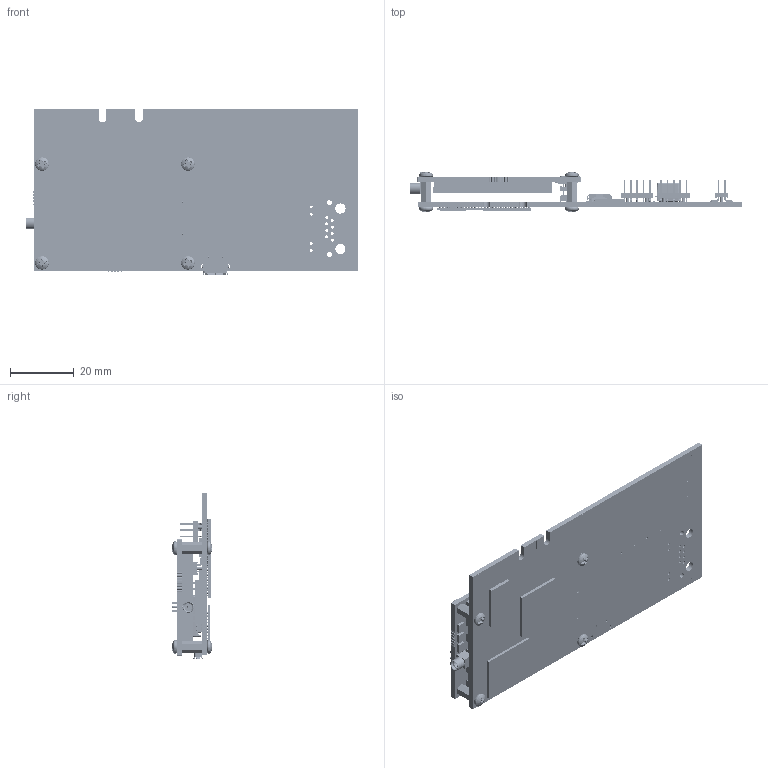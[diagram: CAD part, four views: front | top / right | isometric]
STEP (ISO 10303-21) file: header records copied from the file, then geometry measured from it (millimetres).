
FILE_DESCRIPTION (( 'STEP AP214' ), '1' );
FILE_NAME ('Z9-PC.STEP', '2018-09-29T13:47:12', ( '' ), ( '' ), 'SwSTEP 2.0', 'SolidWorks 2016', '' );
FILE_SCHEMA (( 'AUTOMOTIVE_DESIGN' ));
Length unit declared in the file: inch
Products named in the file (79): EIN0472PS_EIN0102PT; U14 ; SOIC8_5_4_EIC2564FS; _TMM-107-01-G-D-SM_pin; 0805IND_EFI0805FB; U11; LGA32R600X600X125_EIC6901SS; _TMM-107-01-G-D-SM-A-P-TR_body; 0402_EIN0082FW; U12; SOT65P210X1105N_EIC3801SS; EPC0091XA_Single PCB; 0402_EIN0101FG; EPC0092XB; QFN50P700X700X10049N_EIC1350SS; Z9-PC Interface Board_AMT0103AA; LLR0070SP; 0805IND_EIN0103FS; MTH030_TP30; U9; Z9-C&T_AMT0100AA; SC703_EDI0099SD; Z9-PC; TPSMD030_TPSMD030; U13-U15; LLR0040SP_LAB0012ZL; EOP0026RG_EOP0062RG; 0402_ERETBDFP; J4; AST0130SA; 0402_ECA0020FP; 0402_ERE1503FP; J4_TMM-105-06-G-D-SM-A_body; MST0130SF; 0402_ECA0180FC; 0402_ERE2001FP; J2-J3; MST0130SC; 0402_ECA0120FC; 0402_ERE1001FP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
Assembly tree (235 placements, depth 5):
  MTH030_TP30
  Z9-PC
    Z9-PC Interface Board_AMT0103AA
      EPC0092XB
      U12
      U11
      U14 
      F1
      HSC0203LP_Lime  x4
      HSO0204FF_91115A806  x4
      J9
      J1
        _CLT-107-02-G-D-TR_socket
        _C-0702_pins
        _CLT_alignment_pins  x2
      J2-J3  x2
        J2-J3_TMM-105-06-G-D-SM-A_body
        TMM-pin
      J4
        J4_TMM-105-06-G-D-SM-A_body
        TMM-pin  x10
      U13-U15  x2
      U9
    Z9-C&T_AMT0100AA
      EPC0091XA_Single PCB
      TMM-107-01-G-D-SM-A-P-TR
        _TMM-107-01-G-D-SM-A-P-TR_body
        _TMM-107-01-G-D-SM_pin  x26
      ECN0110FR
      Thor-A_emn_Z9-T
        epc0091xa81315n bottom_Z9-T
          LLR0080SP
        epc0091xa81315n top
          0402_ECA0103FX  x8
          0402_ECA0104LS  x2
          0402_ECA0104FX  x16
          0603_ECA0106SX  x5
          0402_ECA0105XV  x8
          0402_ECA0220FC  x3
          0402_ECA0120FC  x2
          0402_ECA0180FC  x2
          0402_ECA0020FP  x5
          EOP0026RG_EOP0062RG  x3
          SC703_EDI0099SD  x10
          0805IND_EIN0103FS
          0402_EIN0101FG
          0402_EIN0082FW  x2
          0805IND_EFI0805FB  x2
          EIN0472PS_EIN0102PT
          0402_ERE0330FP  x25
          0402_ERE1002FP  x12
          0402_ERE475RFP  x2
          0402_ERE2002FP
          0402_ERE0000FP  x10
          0402_ERE1004FP
          0402_ERE1001FP
          0402_ERE2001FP  x4
          0402_ERE1503FP
          0402_ERETBDFP
          QFN50P700X700X10049N_EIC1350SS
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Bounding box: 104.06 x 12.49 x 52.08 mm (x, y, z)
Volume: 14330.3 mm3; surface area: 31355.1 mm2
Topology: 404 solids, 412 shells, 7804 faces, 18190 edges, 11910 vertices
Faces by surface type: plane 4734, cylinder 2662, cone 250, bspline 88, torus 36, sphere 34
Entity records: 167373 total; most frequent: CARTESIAN_POINT 33705, DIRECTION 26169, ORIENTED_EDGE 23602, EDGE_CURVE 11801, AXIS2_PLACEMENT_3D 9371, VERTEX_POINT 7831, LINE 7427, VECTOR 7427
